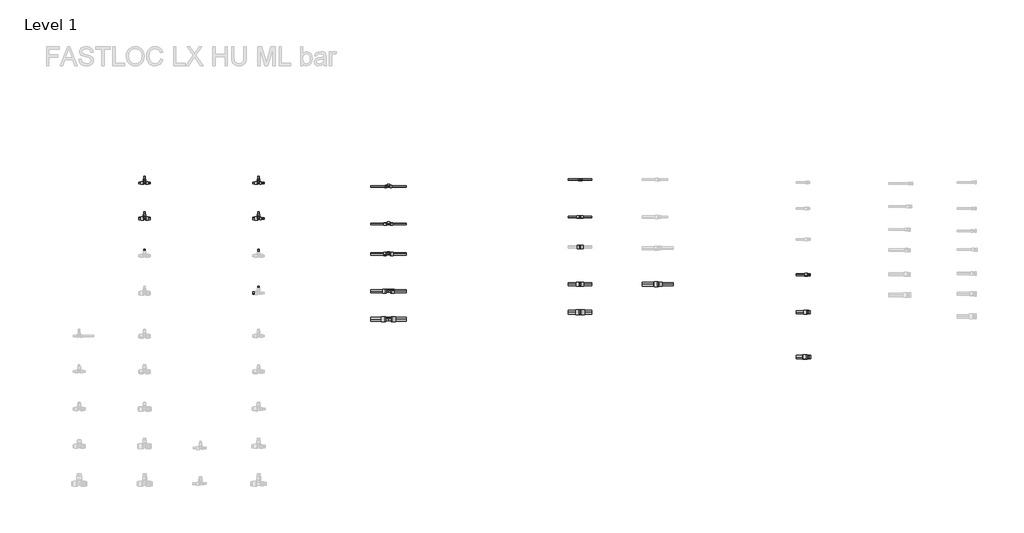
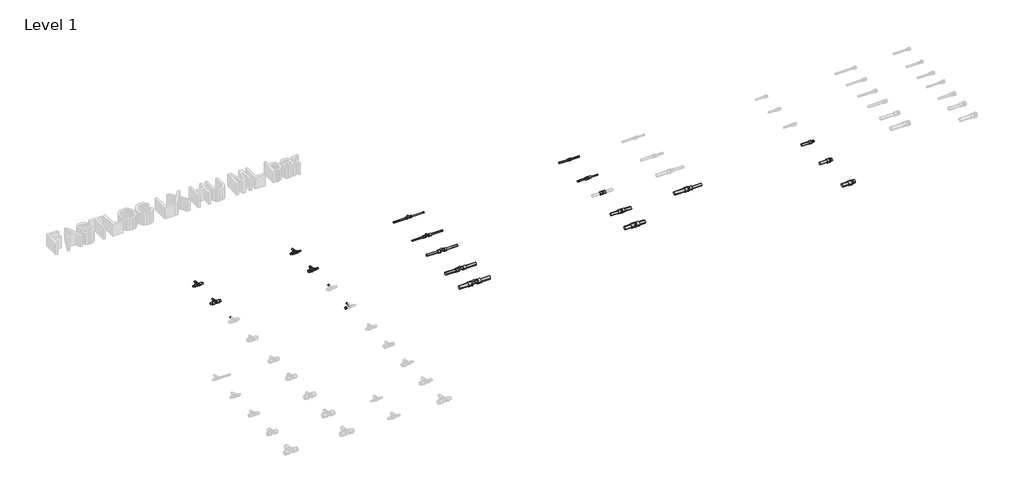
# One storey, part 26 of 78: 39 pipe segments, 18 pipe fittings.
"""IFC4 building model written with IfcOpenShell, lengths in millimetres."""

from ifc_helpers import new_model, si_unit, point, frame, frame_2d, origin, place, context, project, spatial, circle_curve, trimmed, segment, composite_curve, outline, extrude, transform, mapped, element, save
from components import pipe_fitting_027be69e, pipe_fitting_14a26f43, pipe_fitting_91740978, pipe_fitting_5ae7c970, pipe_fitting_e97a97d3, pipe_fitting_8fb58d5f, pipe_fitting_db17a53a, pipe_fitting_d92d4423, pipe_fitting_47d0521d, pipe_fitting_29c4d4eb, pipe_fitting_00caae07, pipe_fitting_1d22680d, pipe_fitting_5e3c5755, pipe_fitting_f5731c1c, pipe_fitting_607ccf76, pipe_fitting_a999c26e, pipe_fitting_b01d00d0, pipe_fitting_e8fea69e

model = new_model("IFC4")

# Units and contexts
model_context = context("Model", 3, world=origin())
ifc_project = project(units=[si_unit("LENGTHUNIT", "METRE", prefix="MILLI")], contexts=[model_context])

# Site, building, storey
site = spatial("IfcSite", under=ifc_project)
building = spatial("IfcBuilding", under=site)
storey = spatial("IfcBuildingStorey", under=building, Name="Level 1", Elevation=0.0)

# Pipe fittings
placement = place(None, origin())
pipe_fitting_shape = pipe_fitting_027be69e(model_context)
element("IfcPipeFitting", 1, ObjectType="FASTLOC_Coupling equal LX : FSL C LX HU", at=placement, inside=storey, context=model_context, shape_type="MappedRepresentation", body=[
    mapped(pipe_fitting_shape, transform((5088.3790161, -1205.8821283, 0.0), x_axis=(1.0, 0.0, 0.0), y_axis=(0.0, 1.0, 0.0), z_axis=(0.0, 0.0, 1.0))),
])
pipe_fitting_2_shape = pipe_fitting_14a26f43(model_context)
element("IfcPipeFitting", 2, ObjectType="FASTLOC_Coupling reduced LX : FSL C LX HU", at=placement, inside=storey, context=model_context, shape_type="MappedRepresentation", body=[
    mapped(pipe_fitting_2_shape, transform((5926.6928556, -2325.8821283, 0.0), x_axis=(1.0, 0.0, 0.0), y_axis=(0.0, 1.0, 0.0), z_axis=(0.0, 0.0, 1.0))),
])
pipe_fitting_3_shape = pipe_fitting_91740978(model_context)
element("IfcPipeFitting", 3, ObjectType="FASTLOC_T-piece internal thread LX : FSL T thread LX HU", at=placement, inside=storey, context=model_context, shape_type="MappedRepresentation", body=[
    mapped(pipe_fitting_3_shape, transform((3036.609585, -2399.8272875, 0.0), x_axis=(1.0, 0.0, 0.0), y_axis=(0.0, 1.0, 0.0), z_axis=(0.0, 0.0, 1.0))),
])
pipe_fitting_4_shape = pipe_fitting_5ae7c970(model_context)
element("IfcPipeFitting", 4, ObjectType="FASTLOC_T-piece_LX : FSL T-Piece LX HU", at=placement, inside=storey, context=model_context, shape_type="MappedRepresentation", body=[
    mapped(pipe_fitting_4_shape, transform((426.7498072, -1240.2405791, 0.0), x_axis=(1.0, 0.0, 0.0), y_axis=(0.0, 1.0, 0.0), z_axis=(0.0, 0.0, 1.0))),
])
pipe_fitting_5_shape = pipe_fitting_e97a97d3(model_context)
element("IfcPipeFitting", 5, ObjectType="FASTLOC_T-piece_LX : FSL T-Piece LX HU", at=placement, inside=storey, context=model_context, shape_type="MappedRepresentation", body=[
    mapped(pipe_fitting_5_shape, transform((426.7498072, -1620.2405791, 0.0), x_axis=(1.0, 0.0, 0.0), y_axis=(0.0, 1.0, 0.0), z_axis=(0.0, 0.0, 1.0))),
])
pipe_fitting_6_shape = pipe_fitting_8fb58d5f(model_context)
element("IfcPipeFitting", 6, ObjectType="FASTLOC_T-piece_LX : FSL T-Piece LX HU", at=placement, inside=storey, context=model_context, shape_type="MappedRepresentation", body=[
    mapped(pipe_fitting_6_shape, transform((1646.7498072, -1240.2405791, 0.0), x_axis=(1.0, 0.0, 0.0), y_axis=(0.0, 1.0, 0.0), z_axis=(0.0, 0.0, 1.0))),
])
pipe_fitting_7_shape = pipe_fitting_db17a53a(model_context)
element("IfcPipeFitting", 7, ObjectType="FASTLOC_T-piece_LX : FSL T-Piece LX HU", at=placement, inside=storey, context=model_context, shape_type="MappedRepresentation", body=[
    mapped(pipe_fitting_7_shape, transform((1646.7498072, -1620.2405791, 0.0), x_axis=(1.0, 0.0, 0.0), y_axis=(0.0, 1.0, 0.0), z_axis=(0.0, 0.0, 1.0))),
])
pipe_fitting_8_shape = pipe_fitting_d92d4423(model_context)
element("IfcPipeFitting", 8, ObjectType="FASTLOC_T-piece internal thread LX : FSL T thread LX HU", at=placement, inside=storey, context=model_context, shape_type="MappedRepresentation", body=[
    mapped(pipe_fitting_8_shape, transform((3036.609585, -1279.8272875, 0.0), x_axis=(1.0, 0.0, 0.0), y_axis=(0.0, 1.0, 0.0), z_axis=(0.0, 0.0, 1.0))),
])
pipe_fitting_9_shape = pipe_fitting_47d0521d(model_context)
element("IfcPipeFitting", 9, ObjectType="FASTLOC_T-piece internal thread LX : FSL T thread LX HU", at=placement, inside=storey, context=model_context, shape_type="MappedRepresentation", body=[
    mapped(pipe_fitting_9_shape, transform((3036.609585, -1679.8272875, 0.0), x_axis=(1.0, 0.0, 0.0), y_axis=(0.0, 1.0, 0.0), z_axis=(0.0, 0.0, 1.0))),
])
pipe_fitting_10_shape = pipe_fitting_29c4d4eb(model_context)
element("IfcPipeFitting", 10, ObjectType="FASTLOC_T-piece internal thread LX : FSL T thread LX HU", at=placement, inside=storey, context=model_context, shape_type="MappedRepresentation", body=[
    mapped(pipe_fitting_10_shape, transform((3036.609585, -1999.8272875, 0.0), x_axis=(1.0, 0.0, 0.0), y_axis=(0.0, 1.0, 0.0), z_axis=(0.0, 0.0, 1.0))),
])
pipe_fitting_11_shape = pipe_fitting_00caae07(model_context)
element("IfcPipeFitting", 11, ObjectType="FASTLOC_T-piece internal thread LX : FSL T thread LX HU", at=placement, inside=storey, context=model_context, shape_type="MappedRepresentation", body=[
    mapped(pipe_fitting_11_shape, transform((3036.609585, -2699.8272875, 0.0), x_axis=(1.0, 0.0, 0.0), y_axis=(0.0, 1.0, 0.0), z_axis=(0.0, 0.0, 1.0))),
])
pipe_fitting_12_shape = pipe_fitting_1d22680d(model_context)
element("IfcPipeFitting", 12, ObjectType="FASTLOC_Coupling equal LX : FSL C LX HU", at=placement, inside=storey, context=model_context, shape_type="MappedRepresentation", body=[
    mapped(pipe_fitting_12_shape, transform((5088.3790161, -1605.8821283, 0.0), x_axis=(1.0, 0.0, 0.0), y_axis=(0.0, 1.0, 0.0), z_axis=(0.0, 0.0, 1.0))),
])
pipe_fitting_13_shape = pipe_fitting_5e3c5755(model_context)
element("IfcPipeFitting", 13, ObjectType="FASTLOC_Coupling equal LX : FSL C LX HU", at=placement, inside=storey, context=model_context, shape_type="MappedRepresentation", body=[
    mapped(pipe_fitting_13_shape, transform((5088.3790161, -1925.8821283, 0.0), x_axis=(1.0, 0.0, 0.0), y_axis=(0.0, 1.0, 0.0), z_axis=(0.0, 0.0, 1.0))),
])
pipe_fitting_14_shape = pipe_fitting_f5731c1c(model_context)
element("IfcPipeFitting", 14, ObjectType="FASTLOC_Coupling equal LX : FSL C LX HU", at=placement, inside=storey, context=model_context, shape_type="MappedRepresentation", body=[
    mapped(pipe_fitting_14_shape, transform((5088.3790161, -2325.8821283, 0.0), x_axis=(1.0, 0.0, 0.0), y_axis=(0.0, 1.0, 0.0), z_axis=(0.0, 0.0, 1.0))),
])
pipe_fitting_15_shape = pipe_fitting_607ccf76(model_context)
element("IfcPipeFitting", 15, ObjectType="FASTLOC_Coupling equal LX : FSL C LX HU", at=placement, inside=storey, context=model_context, shape_type="MappedRepresentation", body=[
    mapped(pipe_fitting_15_shape, transform((5088.3790161, -2625.8821283, 0.0), x_axis=(1.0, 0.0, 0.0), y_axis=(0.0, 1.0, 0.0), z_axis=(0.0, 0.0, 1.0))),
])
pipe_fitting_16_shape = pipe_fitting_a999c26e(model_context)
element("IfcPipeFitting", 16, ObjectType="FASTLOC_Adapter_LX, with external thread : FSL A C external HU", at=placement, inside=storey, context=model_context, shape_type="MappedRepresentation", body=[
    mapped(pipe_fitting_16_shape, transform((7526.8953131, -2224.2068389, 0.0), x_axis=(1.0, 0.0, 0.0), y_axis=(0.0, 1.0, 0.0), z_axis=(0.0, 0.0, 1.0))),
])
pipe_fitting_17_shape = pipe_fitting_b01d00d0(model_context)
element("IfcPipeFitting", 17, ObjectType="FASTLOC_Adapter_LX, with external thread : FSL A C external HU", at=placement, inside=storey, context=model_context, shape_type="MappedRepresentation", body=[
    mapped(pipe_fitting_17_shape, transform((7526.8953131, -2624.2068389, 0.0), x_axis=(1.0, 0.0, 0.0), y_axis=(0.0, 1.0, 0.0), z_axis=(0.0, 0.0, 1.0))),
])
pipe_fitting_18_shape = pipe_fitting_e8fea69e(model_context)
element("IfcPipeFitting", 18, ObjectType="FASTLOC_Adapter_LX, with external thread : FSL A C external HU", at=placement, inside=storey, context=model_context, shape_type="MappedRepresentation", body=[
    mapped(pipe_fitting_18_shape, transform((7526.8953131, -3104.2068389, 0.0), x_axis=(1.0, 0.0, 0.0), y_axis=(0.0, 1.0, 0.0), z_axis=(0.0, 0.0, 1.0))),
])

# Pipe segments
element("IfcPipeSegment", 19, ObjectType="FASTLOC LX ML HU bar", at=placement, inside=storey, context=model_context, shape_type="SweptSolid", body=[
    extrude(outline(composite_curve([segment(trimmed(circle_curve(frame_2d((-1240.2405791, 0.0)), 8.0), [point((-1248.2405791, 0.0))], [point((-1240.2405791, 8.0))], False, "CARTESIAN"), True, "CONTINUOUS"), segment(trimmed(circle_curve(frame_2d((-1240.2405791, 0.0)), 8.0), [point((-1240.2405791, 8.0))], [point((-1232.2405791, 0.0))], False, "CARTESIAN"), True, "CONTINUOUS"), segment(trimmed(circle_curve(frame_2d((-1240.2405791, 0.0)), 8.0), [point((-1232.2405791, 0.0))], [point((-1240.2405791, -8.0))], False, "CARTESIAN"), True, "CONTINUOUS"), segment(trimmed(circle_curve(frame_2d((-1240.2405791, 0.0)), 8.0), [point((-1240.2405791, -8.0))], [point((-1248.2405791, 0.0))], False, "CARTESIAN"), True, "CONTINUOUS")], self_intersect=False)), frame((442.0498072, 0.0, 0.0), z_axis=(1.0, 0.0, 0.0), x_axis=(0.0, 1.0, 0.0)), (0.0, 0.0, 1.0), 46.7),
])
element("IfcPipeSegment", 20, ObjectType="FASTLOC LX ML HU bar", at=placement, inside=storey, context=model_context, shape_type="SweptSolid", body=[
    extrude(outline(composite_curve([segment(trimmed(circle_curve(frame_2d((-1240.2405791, 0.0)), 8.0), [point((-1232.2405791, 0.0))], [point((-1240.2405791, -8.0))], False, "CARTESIAN"), True, "CONTINUOUS"), segment(trimmed(circle_curve(frame_2d((-1240.2405791, 0.0)), 8.0), [point((-1240.2405791, -8.0))], [point((-1248.2405791, 0.0))], False, "CARTESIAN"), True, "CONTINUOUS"), segment(trimmed(circle_curve(frame_2d((-1240.2405791, 0.0)), 8.0), [point((-1248.2405791, 0.0))], [point((-1240.2405791, 8.0))], False, "CARTESIAN"), True, "CONTINUOUS"), segment(trimmed(circle_curve(frame_2d((-1240.2405791, 0.0)), 8.0), [point((-1240.2405791, 8.0))], [point((-1232.2405791, 0.0))], False, "CARTESIAN"), True, "CONTINUOUS")], self_intersect=False)), frame((364.7498072, 0.0, 0.0), z_axis=(1.0, 0.0, 0.0), x_axis=(0.0, 1.0, 0.0)), (0.0, 0.0, 1.0), 46.7),
])
element("IfcPipeSegment", 21, ObjectType="FASTLOC LX ML HU bar", at=placement, inside=storey, context=model_context, shape_type="SweptSolid", body=[
    extrude(outline(composite_curve([segment(trimmed(circle_curve(frame_2d((0.0, 426.7498072)), 8.0), [point((0.0, 434.7498072))], [point((8.0, 426.7498072))], False, "CARTESIAN"), True, "CONTINUOUS"), segment(trimmed(circle_curve(frame_2d((0.0, 426.7498072)), 8.0), [point((8.0, 426.7498072))], [point((0.0, 418.7498072))], False, "CARTESIAN"), True, "CONTINUOUS"), segment(trimmed(circle_curve(frame_2d((0.0, 426.7498072)), 8.0), [point((0.0, 418.7498072))], [point((-8.0, 426.7498072))], False, "CARTESIAN"), True, "CONTINUOUS"), segment(trimmed(circle_curve(frame_2d((0.0, 426.7498072)), 8.0), [point((-8.0, 426.7498072))], [point((0.0, 434.7498072))], False, "CARTESIAN"), True, "CONTINUOUS")], self_intersect=False)), frame((0.0, -1213.9405791, 0.0), z_axis=(0.0, 1.0, 0.0), x_axis=(0.0, 0.0, 1.0)), (0.0, 0.0, 1.0), 46.0),
])
element("IfcPipeSegment", 22, ObjectType="FASTLOC LX ML HU bar", at=placement, inside=storey, context=model_context, shape_type="SweptSolid", body=[
    extrude(outline(composite_curve([segment(trimmed(circle_curve(frame_2d((-1620.2405791, 0.0)), 12.5), [point((-1632.7405791, 0.0))], [point((-1620.2405791, 12.5))], False, "CARTESIAN"), True, "CONTINUOUS"), segment(trimmed(circle_curve(frame_2d((-1620.2405791, 0.0)), 12.5), [point((-1620.2405791, 12.5))], [point((-1607.7405791, 0.0))], False, "CARTESIAN"), True, "CONTINUOUS"), segment(trimmed(circle_curve(frame_2d((-1620.2405791, 0.0)), 12.5), [point((-1607.7405791, 0.0))], [point((-1620.2405791, -12.5))], False, "CARTESIAN"), True, "CONTINUOUS"), segment(trimmed(circle_curve(frame_2d((-1620.2405791, 0.0)), 12.5), [point((-1620.2405791, -12.5))], [point((-1632.7405791, 0.0))], False, "CARTESIAN"), True, "CONTINUOUS")], self_intersect=False)), frame((442.9498072, 0.0, 0.0), z_axis=(1.0, 0.0, 0.0), x_axis=(0.0, 1.0, 0.0)), (0.0, 0.0, 1.0), 45.8),
])
element("IfcPipeSegment", 23, ObjectType="FASTLOC LX ML HU bar", at=placement, inside=storey, context=model_context, shape_type="SweptSolid", body=[
    extrude(outline(composite_curve([segment(trimmed(circle_curve(frame_2d((-1620.2405791, 0.0)), 12.5), [point((-1607.7405791, 0.0))], [point((-1620.2405791, -12.5))], False, "CARTESIAN"), True, "CONTINUOUS"), segment(trimmed(circle_curve(frame_2d((-1620.2405791, 0.0)), 12.5), [point((-1620.2405791, -12.5))], [point((-1632.7405791, 0.0))], False, "CARTESIAN"), True, "CONTINUOUS"), segment(trimmed(circle_curve(frame_2d((-1620.2405791, 0.0)), 12.5), [point((-1632.7405791, 0.0))], [point((-1620.2405791, 12.5))], False, "CARTESIAN"), True, "CONTINUOUS"), segment(trimmed(circle_curve(frame_2d((-1620.2405791, 0.0)), 12.5), [point((-1620.2405791, 12.5))], [point((-1607.7405791, 0.0))], False, "CARTESIAN"), True, "CONTINUOUS")], self_intersect=False)), frame((364.7498072, 0.0, 0.0), z_axis=(1.0, 0.0, 0.0), x_axis=(0.0, 1.0, 0.0)), (0.0, 0.0, 1.0), 45.8),
])
element("IfcPipeSegment", 24, ObjectType="FASTLOC LX ML HU bar", at=placement, inside=storey, context=model_context, shape_type="SweptSolid", body=[
    extrude(outline(composite_curve([segment(trimmed(circle_curve(frame_2d((0.0, 426.7498072)), 8.0), [point((0.0, 434.7498072))], [point((8.0, 426.7498072))], False, "CARTESIAN"), True, "CONTINUOUS"), segment(trimmed(circle_curve(frame_2d((0.0, 426.7498072)), 8.0), [point((8.0, 426.7498072))], [point((0.0, 418.7498072))], False, "CARTESIAN"), True, "CONTINUOUS"), segment(trimmed(circle_curve(frame_2d((0.0, 426.7498072)), 8.0), [point((0.0, 418.7498072))], [point((-8.0, 426.7498072))], False, "CARTESIAN"), True, "CONTINUOUS"), segment(trimmed(circle_curve(frame_2d((0.0, 426.7498072)), 8.0), [point((-8.0, 426.7498072))], [point((0.0, 434.7498072))], False, "CARTESIAN"), True, "CONTINUOUS")], self_intersect=False)), frame((0.0, -1591.2405791, 0.0), z_axis=(0.0, 1.0, 0.0), x_axis=(0.0, 0.0, 1.0)), (0.0, 0.0, 1.0), 43.3),
])
element("IfcPipeSegment", 25, ObjectType="FASTLOC LX ML HU bar", at=placement, inside=storey, context=model_context, shape_type="SweptSolid", body=[
    extrude(outline(composite_curve([segment(trimmed(circle_curve(frame_2d((0.0, 426.7498072)), 8.0), [point((0.0, 434.7498072))], [point((8.0, 426.7498072))], False, "CARTESIAN"), True, "CONTINUOUS"), segment(trimmed(circle_curve(frame_2d((0.0, 426.7498072)), 8.0), [point((8.0, 426.7498072))], [point((0.0, 418.7498072))], False, "CARTESIAN"), True, "CONTINUOUS"), segment(trimmed(circle_curve(frame_2d((0.0, 426.7498072)), 8.0), [point((0.0, 418.7498072))], [point((-8.0, 426.7498072))], False, "CARTESIAN"), True, "CONTINUOUS"), segment(trimmed(circle_curve(frame_2d((0.0, 426.7498072)), 8.0), [point((-8.0, 426.7498072))], [point((0.0, 434.7498072))], False, "CARTESIAN"), True, "CONTINUOUS")], self_intersect=False)), frame((0.0, -1991.0405791, 0.0), z_axis=(0.0, 1.0, 0.0), x_axis=(0.0, 0.0, 1.0)), (0.0, 0.0, 1.0), 43.1),
])
element("IfcPipeSegment", 26, ObjectType="FASTLOC LX ML HU bar", at=placement, inside=storey, context=model_context, shape_type="SweptSolid", body=[
    extrude(outline(composite_curve([segment(trimmed(circle_curve(frame_2d((-1240.2405791, 0.0)), 8.0), [point((-1248.2405791, 0.0))], [point((-1240.2405791, 8.0))], False, "CARTESIAN"), True, "CONTINUOUS"), segment(trimmed(circle_curve(frame_2d((-1240.2405791, 0.0)), 8.0), [point((-1240.2405791, 8.0))], [point((-1232.2405791, 0.0))], False, "CARTESIAN"), True, "CONTINUOUS"), segment(trimmed(circle_curve(frame_2d((-1240.2405791, 0.0)), 8.0), [point((-1232.2405791, 0.0))], [point((-1240.2405791, -8.0))], False, "CARTESIAN"), True, "CONTINUOUS"), segment(trimmed(circle_curve(frame_2d((-1240.2405791, 0.0)), 8.0), [point((-1240.2405791, -8.0))], [point((-1248.2405791, 0.0))], False, "CARTESIAN"), True, "CONTINUOUS")], self_intersect=False)), frame((1661.8498072, 0.0, 0.0), z_axis=(1.0, 0.0, 0.0), x_axis=(0.0, 1.0, 0.0)), (0.0, 0.0, 1.0), 46.9),
])
element("IfcPipeSegment", 27, ObjectType="FASTLOC LX ML HU bar", at=placement, inside=storey, context=model_context, shape_type="SweptSolid", body=[
    extrude(outline(composite_curve([segment(trimmed(circle_curve(frame_2d((-1240.2405791, 0.0)), 8.0), [point((-1232.2405791, 0.0))], [point((-1240.2405791, -8.0))], False, "CARTESIAN"), True, "CONTINUOUS"), segment(trimmed(circle_curve(frame_2d((-1240.2405791, 0.0)), 8.0), [point((-1240.2405791, -8.0))], [point((-1248.2405791, 0.0))], False, "CARTESIAN"), True, "CONTINUOUS"), segment(trimmed(circle_curve(frame_2d((-1240.2405791, 0.0)), 8.0), [point((-1248.2405791, 0.0))], [point((-1240.2405791, 8.0))], False, "CARTESIAN"), True, "CONTINUOUS"), segment(trimmed(circle_curve(frame_2d((-1240.2405791, 0.0)), 8.0), [point((-1240.2405791, 8.0))], [point((-1232.2405791, 0.0))], False, "CARTESIAN"), True, "CONTINUOUS")], self_intersect=False)), frame((1584.7498072, 0.0, 0.0), z_axis=(1.0, 0.0, 0.0), x_axis=(0.0, 1.0, 0.0)), (0.0, 0.0, 1.0), 46.5),
])
element("IfcPipeSegment", 28, ObjectType="FASTLOC LX ML HU bar", at=placement, inside=storey, context=model_context, shape_type="SweptSolid", body=[
    extrude(outline(composite_curve([segment(trimmed(circle_curve(frame_2d((0.0, 1646.7498072)), 8.0), [point((0.0, 1654.7498072))], [point((8.0, 1646.7498072))], False, "CARTESIAN"), True, "CONTINUOUS"), segment(trimmed(circle_curve(frame_2d((0.0, 1646.7498072)), 8.0), [point((8.0, 1646.7498072))], [point((0.0, 1638.7498072))], False, "CARTESIAN"), True, "CONTINUOUS"), segment(trimmed(circle_curve(frame_2d((0.0, 1646.7498072)), 8.0), [point((0.0, 1638.7498072))], [point((-8.0, 1646.7498072))], False, "CARTESIAN"), True, "CONTINUOUS"), segment(trimmed(circle_curve(frame_2d((0.0, 1646.7498072)), 8.0), [point((-8.0, 1646.7498072))], [point((0.0, 1654.7498072))], False, "CARTESIAN"), True, "CONTINUOUS")], self_intersect=False)), frame((0.0, -1213.8405791, 0.0), z_axis=(0.0, 1.0, 0.0), x_axis=(0.0, 0.0, 1.0)), (0.0, 0.0, 1.0), 45.9),
])
element("IfcPipeSegment", 29, ObjectType="FASTLOC LX ML HU bar", at=placement, inside=storey, context=model_context, shape_type="SweptSolid", body=[
    extrude(outline(composite_curve([segment(trimmed(circle_curve(frame_2d((-1620.2405791, 0.0)), 8.0), [point((-1628.2405791, 0.0))], [point((-1620.2405791, 8.0))], False, "CARTESIAN"), True, "CONTINUOUS"), segment(trimmed(circle_curve(frame_2d((-1620.2405791, 0.0)), 8.0), [point((-1620.2405791, 8.0))], [point((-1612.2405791, 0.0))], False, "CARTESIAN"), True, "CONTINUOUS"), segment(trimmed(circle_curve(frame_2d((-1620.2405791, 0.0)), 8.0), [point((-1612.2405791, 0.0))], [point((-1620.2405791, -8.0))], False, "CARTESIAN"), True, "CONTINUOUS"), segment(trimmed(circle_curve(frame_2d((-1620.2405791, 0.0)), 8.0), [point((-1620.2405791, -8.0))], [point((-1628.2405791, 0.0))], False, "CARTESIAN"), True, "CONTINUOUS")], self_intersect=False)), frame((1661.8498072, 0.0, 0.0), z_axis=(1.0, 0.0, 0.0), x_axis=(0.0, 1.0, 0.0)), (0.0, 0.0, 1.0), 46.9),
])
element("IfcPipeSegment", 30, ObjectType="FASTLOC LX ML HU bar", at=placement, inside=storey, context=model_context, shape_type="SweptSolid", body=[
    extrude(outline(composite_curve([segment(trimmed(circle_curve(frame_2d((-1620.2405791, 0.0)), 12.5), [point((-1607.7405791, 0.0))], [point((-1620.2405791, -12.5))], False, "CARTESIAN"), True, "CONTINUOUS"), segment(trimmed(circle_curve(frame_2d((-1620.2405791, 0.0)), 12.5), [point((-1620.2405791, -12.5))], [point((-1632.7405791, 0.0))], False, "CARTESIAN"), True, "CONTINUOUS"), segment(trimmed(circle_curve(frame_2d((-1620.2405791, 0.0)), 12.5), [point((-1632.7405791, 0.0))], [point((-1620.2405791, 12.5))], False, "CARTESIAN"), True, "CONTINUOUS"), segment(trimmed(circle_curve(frame_2d((-1620.2405791, 0.0)), 12.5), [point((-1620.2405791, 12.5))], [point((-1607.7405791, 0.0))], False, "CARTESIAN"), True, "CONTINUOUS")], self_intersect=False)), frame((1584.7498072, 0.0, 0.0), z_axis=(1.0, 0.0, 0.0), x_axis=(0.0, 1.0, 0.0)), (0.0, 0.0, 1.0), 45.6),
])
element("IfcPipeSegment", 31, ObjectType="FASTLOC LX ML HU bar", at=placement, inside=storey, context=model_context, shape_type="SweptSolid", body=[
    extrude(outline(composite_curve([segment(trimmed(circle_curve(frame_2d((0.0, 1646.7498072)), 8.0), [point((0.0, 1654.7498072))], [point((8.0, 1646.7498072))], False, "CARTESIAN"), True, "CONTINUOUS"), segment(trimmed(circle_curve(frame_2d((0.0, 1646.7498072)), 8.0), [point((8.0, 1646.7498072))], [point((0.0, 1638.7498072))], False, "CARTESIAN"), True, "CONTINUOUS"), segment(trimmed(circle_curve(frame_2d((0.0, 1646.7498072)), 8.0), [point((0.0, 1638.7498072))], [point((-8.0, 1646.7498072))], False, "CARTESIAN"), True, "CONTINUOUS"), segment(trimmed(circle_curve(frame_2d((0.0, 1646.7498072)), 8.0), [point((-8.0, 1646.7498072))], [point((0.0, 1654.7498072))], False, "CARTESIAN"), True, "CONTINUOUS")], self_intersect=False)), frame((0.0, -1591.1405791, 0.0), z_axis=(0.0, 1.0, 0.0), x_axis=(0.0, 0.0, 1.0)), (0.0, 0.0, 1.0), 43.2),
])
element("IfcPipeSegment", 32, ObjectType="FASTLOC LX ML HU bar", at=placement, inside=storey, context=model_context, shape_type="SweptSolid", body=[
    extrude(outline(composite_curve([segment(trimmed(circle_curve(frame_2d((0.0, 1646.7498072)), 8.0), [point((0.0, 1654.7498072))], [point((8.0, 1646.7498072))], False, "CARTESIAN"), True, "CONTINUOUS"), segment(trimmed(circle_curve(frame_2d((0.0, 1646.7498072)), 8.0), [point((8.0, 1646.7498072))], [point((0.0, 1638.7498072))], False, "CARTESIAN"), True, "CONTINUOUS"), segment(trimmed(circle_curve(frame_2d((0.0, 1646.7498072)), 8.0), [point((0.0, 1638.7498072))], [point((-8.0, 1646.7498072))], False, "CARTESIAN"), True, "CONTINUOUS"), segment(trimmed(circle_curve(frame_2d((0.0, 1646.7498072)), 8.0), [point((-8.0, 1646.7498072))], [point((0.0, 1654.7498072))], False, "CARTESIAN"), True, "CONTINUOUS")], self_intersect=False)), frame((0.0, -1991.1405791, 0.0), z_axis=(0.0, 1.0, 0.0), x_axis=(0.0, 0.0, 1.0)), (0.0, 0.0, 1.0), 43.2),
])
element("IfcPipeSegment", 33, ObjectType="FASTLOC LX ML HU bar", at=placement, inside=storey, context=model_context, shape_type="SweptSolid", body=[
    extrude(outline(composite_curve([segment(trimmed(circle_curve(frame_2d((-2420.2405791, 0.0)), 12.5), [point((-2407.7405791, 0.0))], [point((-2420.2405791, -12.5))], False, "CARTESIAN"), True, "CONTINUOUS"), segment(trimmed(circle_curve(frame_2d((-2420.2405791, 0.0)), 12.5), [point((-2420.2405791, -12.5))], [point((-2432.7405791, 0.0))], False, "CARTESIAN"), True, "CONTINUOUS"), segment(trimmed(circle_curve(frame_2d((-2420.2405791, 0.0)), 12.5), [point((-2432.7405791, 0.0))], [point((-2420.2405791, 12.5))], False, "CARTESIAN"), True, "CONTINUOUS"), segment(trimmed(circle_curve(frame_2d((-2420.2405791, 0.0)), 12.5), [point((-2420.2405791, 12.5))], [point((-2407.7405791, 0.0))], False, "CARTESIAN"), True, "CONTINUOUS")], self_intersect=False)), frame((1584.7498072, 0.0, 0.0), z_axis=(1.0, 0.0, 0.0), x_axis=(0.0, 1.0, 0.0)), (0.0, 0.0, 1.0), 43.7),
])
element("IfcPipeSegment", 34, ObjectType="FASTLOC LX ML HU bar", at=placement, inside=storey, context=model_context, shape_type="SweptSolid", body=[
    extrude(outline(composite_curve([segment(trimmed(circle_curve(frame_2d((0.0, 1646.7498072)), 8.0), [point((0.0, 1654.7498072))], [point((8.0, 1646.7498072))], False, "CARTESIAN"), True, "CONTINUOUS"), segment(trimmed(circle_curve(frame_2d((0.0, 1646.7498072)), 8.0), [point((8.0, 1646.7498072))], [point((0.0, 1638.7498072))], False, "CARTESIAN"), True, "CONTINUOUS"), segment(trimmed(circle_curve(frame_2d((0.0, 1646.7498072)), 8.0), [point((0.0, 1638.7498072))], [point((-8.0, 1646.7498072))], False, "CARTESIAN"), True, "CONTINUOUS"), segment(trimmed(circle_curve(frame_2d((0.0, 1646.7498072)), 8.0), [point((-8.0, 1646.7498072))], [point((0.0, 1654.7498072))], False, "CARTESIAN"), True, "CONTINUOUS")], self_intersect=False)), frame((0.0, -2391.0405791, 0.0), z_axis=(0.0, 1.0, 0.0), x_axis=(0.0, 0.0, 1.0)), (0.0, 0.0, 1.0), 43.1),
])
element("IfcPipeSegment", 35, ObjectType="FASTLOC LX ML HU bar", at=placement, inside=storey, context=model_context, shape_type="SweptSolid", body=[
    extrude(outline(composite_curve([segment(trimmed(circle_curve(frame_2d((-1279.8272875, 0.0)), 8.0), [point((-1287.8272875, 0.0))], [point((-1279.8272875, 8.0))], False, "CARTESIAN"), True, "CONTINUOUS"), segment(trimmed(circle_curve(frame_2d((-1279.8272875, 0.0)), 8.0), [point((-1279.8272875, 8.0))], [point((-1271.8272875, 0.0))], False, "CARTESIAN"), True, "CONTINUOUS"), segment(trimmed(circle_curve(frame_2d((-1279.8272875, 0.0)), 8.0), [point((-1271.8272875, 0.0))], [point((-1279.8272875, -8.0))], False, "CARTESIAN"), True, "CONTINUOUS"), segment(trimmed(circle_curve(frame_2d((-1279.8272875, 0.0)), 8.0), [point((-1279.8272875, -8.0))], [point((-1287.8272875, 0.0))], False, "CARTESIAN"), True, "CONTINUOUS")], self_intersect=False)), frame((3058.609585, 0.0, 0.0), z_axis=(1.0, 0.0, 0.0), x_axis=(0.0, 1.0, 0.0)), (0.0, 0.0, 1.0), 170.0),
])
element("IfcPipeSegment", 36, ObjectType="FASTLOC LX ML HU bar", at=placement, inside=storey, context=model_context, shape_type="SweptSolid", body=[
    extrude(outline(composite_curve([segment(trimmed(circle_curve(frame_2d((-1279.8272875, 0.0)), 8.0), [point((-1271.8272875, 0.0))], [point((-1279.8272875, -8.0))], False, "CARTESIAN"), True, "CONTINUOUS"), segment(trimmed(circle_curve(frame_2d((-1279.8272875, 0.0)), 8.0), [point((-1279.8272875, -8.0))], [point((-1287.8272875, 0.0))], False, "CARTESIAN"), True, "CONTINUOUS"), segment(trimmed(circle_curve(frame_2d((-1279.8272875, 0.0)), 8.0), [point((-1287.8272875, 0.0))], [point((-1279.8272875, 8.0))], False, "CARTESIAN"), True, "CONTINUOUS"), segment(trimmed(circle_curve(frame_2d((-1279.8272875, 0.0)), 8.0), [point((-1279.8272875, 8.0))], [point((-1271.8272875, 0.0))], False, "CARTESIAN"), True, "CONTINUOUS")], self_intersect=False)), frame((2849.609585, 0.0, 0.0), z_axis=(1.0, 0.0, 0.0), x_axis=(0.0, 1.0, 0.0)), (0.0, 0.0, 1.0), 165.0),
])
element("IfcPipeSegment", 37, ObjectType="FASTLOC LX ML HU bar", at=placement, inside=storey, context=model_context, shape_type="SweptSolid", body=[
    extrude(outline(composite_curve([segment(trimmed(circle_curve(frame_2d((-1679.8272875, 0.0)), 8.0), [point((-1687.8272875, 0.0))], [point((-1679.8272875, 8.0))], False, "CARTESIAN"), True, "CONTINUOUS"), segment(trimmed(circle_curve(frame_2d((-1679.8272875, 0.0)), 8.0), [point((-1679.8272875, 8.0))], [point((-1671.8272875, 0.0))], False, "CARTESIAN"), True, "CONTINUOUS"), segment(trimmed(circle_curve(frame_2d((-1679.8272875, 0.0)), 8.0), [point((-1671.8272875, 0.0))], [point((-1679.8272875, -8.0))], False, "CARTESIAN"), True, "CONTINUOUS"), segment(trimmed(circle_curve(frame_2d((-1679.8272875, 0.0)), 8.0), [point((-1679.8272875, -8.0))], [point((-1687.8272875, 0.0))], False, "CARTESIAN"), True, "CONTINUOUS")], self_intersect=False)), frame((3059.109585, 0.0, 0.0), z_axis=(1.0, 0.0, 0.0), x_axis=(0.0, 1.0, 0.0)), (0.0, 0.0, 1.0), 169.5),
])
element("IfcPipeSegment", 38, ObjectType="FASTLOC LX ML HU bar", at=placement, inside=storey, context=model_context, shape_type="SweptSolid", body=[
    extrude(outline(composite_curve([segment(trimmed(circle_curve(frame_2d((-1679.8272875, 0.0)), 8.0), [point((-1671.8272875, 0.0))], [point((-1679.8272875, -8.0))], False, "CARTESIAN"), True, "CONTINUOUS"), segment(trimmed(circle_curve(frame_2d((-1679.8272875, 0.0)), 8.0), [point((-1679.8272875, -8.0))], [point((-1687.8272875, 0.0))], False, "CARTESIAN"), True, "CONTINUOUS"), segment(trimmed(circle_curve(frame_2d((-1679.8272875, 0.0)), 8.0), [point((-1687.8272875, 0.0))], [point((-1679.8272875, 8.0))], False, "CARTESIAN"), True, "CONTINUOUS"), segment(trimmed(circle_curve(frame_2d((-1679.8272875, 0.0)), 8.0), [point((-1679.8272875, 8.0))], [point((-1671.8272875, 0.0))], False, "CARTESIAN"), True, "CONTINUOUS")], self_intersect=False)), frame((2849.609585, 0.0, 0.0), z_axis=(1.0, 0.0, 0.0), x_axis=(0.0, 1.0, 0.0)), (0.0, 0.0, 1.0), 164.5),
])
element("IfcPipeSegment", 39, ObjectType="FASTLOC LX ML HU bar", at=placement, inside=storey, context=model_context, shape_type="SweptSolid", body=[
    extrude(outline(composite_curve([segment(trimmed(circle_curve(frame_2d((-1999.8272875, 0.0)), 12.5), [point((-2012.3272875, 0.0))], [point((-1999.8272875, 12.5))], False, "CARTESIAN"), True, "CONTINUOUS"), segment(trimmed(circle_curve(frame_2d((-1999.8272875, 0.0)), 12.5), [point((-1999.8272875, 12.5))], [point((-1987.3272875, 0.0))], False, "CARTESIAN"), True, "CONTINUOUS"), segment(trimmed(circle_curve(frame_2d((-1999.8272875, 0.0)), 12.5), [point((-1987.3272875, 0.0))], [point((-1999.8272875, -12.5))], False, "CARTESIAN"), True, "CONTINUOUS"), segment(trimmed(circle_curve(frame_2d((-1999.8272875, 0.0)), 12.5), [point((-1999.8272875, -12.5))], [point((-2012.3272875, 0.0))], False, "CARTESIAN"), True, "CONTINUOUS")], self_intersect=False)), frame((3063.309585, 0.0, 0.0), z_axis=(1.0, 0.0, 0.0), x_axis=(0.0, 1.0, 0.0)), (0.0, 0.0, 1.0), 165.3),
])
element("IfcPipeSegment", 40, ObjectType="FASTLOC LX ML HU bar", at=placement, inside=storey, context=model_context, shape_type="SweptSolid", body=[
    extrude(outline(composite_curve([segment(trimmed(circle_curve(frame_2d((-1999.8272875, 0.0)), 12.5), [point((-1987.3272875, 0.0))], [point((-1999.8272875, -12.5))], False, "CARTESIAN"), True, "CONTINUOUS"), segment(trimmed(circle_curve(frame_2d((-1999.8272875, 0.0)), 12.5), [point((-1999.8272875, -12.5))], [point((-2012.3272875, 0.0))], False, "CARTESIAN"), True, "CONTINUOUS"), segment(trimmed(circle_curve(frame_2d((-1999.8272875, 0.0)), 12.5), [point((-2012.3272875, 0.0))], [point((-1999.8272875, 12.5))], False, "CARTESIAN"), True, "CONTINUOUS"), segment(trimmed(circle_curve(frame_2d((-1999.8272875, 0.0)), 12.5), [point((-1999.8272875, 12.5))], [point((-1987.3272875, 0.0))], False, "CARTESIAN"), True, "CONTINUOUS")], self_intersect=False)), frame((2849.609585, 0.0, 0.0), z_axis=(1.0, 0.0, 0.0), x_axis=(0.0, 1.0, 0.0)), (0.0, 0.0, 1.0), 160.3),
])
element("IfcPipeSegment", 41, ObjectType="FASTLOC LX ML HU bar", at=placement, inside=storey, context=model_context, shape_type="SweptSolid", body=[
    extrude(outline(composite_curve([segment(trimmed(circle_curve(frame_2d((-2399.8272875, 0.0)), 16.0), [point((-2415.8272875, 0.0))], [point((-2399.8272875, 16.0))], False, "CARTESIAN"), True, "CONTINUOUS"), segment(trimmed(circle_curve(frame_2d((-2399.8272875, 0.0)), 16.0), [point((-2399.8272875, 16.0))], [point((-2383.8272875, 0.0))], False, "CARTESIAN"), True, "CONTINUOUS"), segment(trimmed(circle_curve(frame_2d((-2399.8272875, 0.0)), 16.0), [point((-2383.8272875, 0.0))], [point((-2399.8272875, -16.0))], False, "CARTESIAN"), True, "CONTINUOUS"), segment(trimmed(circle_curve(frame_2d((-2399.8272875, 0.0)), 16.0), [point((-2399.8272875, -16.0))], [point((-2415.8272875, 0.0))], False, "CARTESIAN"), True, "CONTINUOUS")], self_intersect=False)), frame((3069.609585, 0.0, 0.0), z_axis=(1.0, 0.0, 0.0), x_axis=(0.0, 1.0, 0.0)), (0.0, 0.0, 1.0), 159.0),
])
element("IfcPipeSegment", 42, ObjectType="FASTLOC LX ML HU bar", at=placement, inside=storey, context=model_context, shape_type="SweptSolid", body=[
    extrude(outline(composite_curve([segment(trimmed(circle_curve(frame_2d((-2399.8272875, 0.0)), 16.0), [point((-2383.8272875, 0.0))], [point((-2399.8272875, -16.0))], False, "CARTESIAN"), True, "CONTINUOUS"), segment(trimmed(circle_curve(frame_2d((-2399.8272875, 0.0)), 16.0), [point((-2399.8272875, -16.0))], [point((-2415.8272875, 0.0))], False, "CARTESIAN"), True, "CONTINUOUS"), segment(trimmed(circle_curve(frame_2d((-2399.8272875, 0.0)), 16.0), [point((-2415.8272875, 0.0))], [point((-2399.8272875, 16.0))], False, "CARTESIAN"), True, "CONTINUOUS"), segment(trimmed(circle_curve(frame_2d((-2399.8272875, 0.0)), 16.0), [point((-2399.8272875, 16.0))], [point((-2383.8272875, 0.0))], False, "CARTESIAN"), True, "CONTINUOUS")], self_intersect=False)), frame((2849.609585, 0.0, 0.0), z_axis=(1.0, 0.0, 0.0), x_axis=(0.0, 1.0, 0.0)), (0.0, 0.0, 1.0), 154.0),
])
element("IfcPipeSegment", 43, ObjectType="FASTLOC LX ML HU bar", at=placement, inside=storey, context=model_context, shape_type="SweptSolid", body=[
    extrude(outline(composite_curve([segment(trimmed(circle_curve(frame_2d((-2699.8272875, 0.0)), 20.0), [point((-2719.8272875, 0.0))], [point((-2699.8272875, 20.0))], False, "CARTESIAN"), True, "CONTINUOUS"), segment(trimmed(circle_curve(frame_2d((-2699.8272875, 0.0)), 20.0), [point((-2699.8272875, 20.0))], [point((-2679.8272875, 0.0))], False, "CARTESIAN"), True, "CONTINUOUS"), segment(trimmed(circle_curve(frame_2d((-2699.8272875, 0.0)), 20.0), [point((-2679.8272875, 0.0))], [point((-2699.8272875, -20.0))], False, "CARTESIAN"), True, "CONTINUOUS"), segment(trimmed(circle_curve(frame_2d((-2699.8272875, 0.0)), 20.0), [point((-2699.8272875, -20.0))], [point((-2719.8272875, 0.0))], False, "CARTESIAN"), True, "CONTINUOUS")], self_intersect=False)), frame((3077.909585, 0.0, 0.0), z_axis=(1.0, 0.0, 0.0), x_axis=(0.0, 1.0, 0.0)), (0.0, 0.0, 1.0), 150.7),
])
element("IfcPipeSegment", 44, ObjectType="FASTLOC LX ML HU bar", at=placement, inside=storey, context=model_context, shape_type="SweptSolid", body=[
    extrude(outline(composite_curve([segment(trimmed(circle_curve(frame_2d((-2699.8272875, 0.0)), 20.0), [point((-2679.8272875, 0.0))], [point((-2699.8272875, -20.0))], False, "CARTESIAN"), True, "CONTINUOUS"), segment(trimmed(circle_curve(frame_2d((-2699.8272875, 0.0)), 20.0), [point((-2699.8272875, -20.0))], [point((-2719.8272875, 0.0))], False, "CARTESIAN"), True, "CONTINUOUS"), segment(trimmed(circle_curve(frame_2d((-2699.8272875, 0.0)), 20.0), [point((-2719.8272875, 0.0))], [point((-2699.8272875, 20.0))], False, "CARTESIAN"), True, "CONTINUOUS"), segment(trimmed(circle_curve(frame_2d((-2699.8272875, 0.0)), 20.0), [point((-2699.8272875, 20.0))], [point((-2679.8272875, 0.0))], False, "CARTESIAN"), True, "CONTINUOUS")], self_intersect=False)), frame((2849.609585, 0.0, 0.0), z_axis=(1.0, 0.0, 0.0), x_axis=(0.0, 1.0, 0.0)), (0.0, 0.0, 1.0), 145.7),
])
element("IfcPipeSegment", 45, ObjectType="FASTLOC LX ML HU bar", at=placement, inside=storey, context=model_context, shape_type="SweptSolid", body=[
    extrude(outline(composite_curve([segment(trimmed(circle_curve(frame_2d((-1205.8821283, 0.0)), 8.0), [point((-1213.8821283, 0.0))], [point((-1205.8821283, 8.0))], False, "CARTESIAN"), True, "CONTINUOUS"), segment(trimmed(circle_curve(frame_2d((-1205.8821283, 0.0)), 8.0), [point((-1205.8821283, 8.0))], [point((-1197.8821283, 0.0))], False, "CARTESIAN"), True, "CONTINUOUS"), segment(trimmed(circle_curve(frame_2d((-1205.8821283, 0.0)), 8.0), [point((-1197.8821283, 0.0))], [point((-1205.8821283, -8.0))], False, "CARTESIAN"), True, "CONTINUOUS"), segment(trimmed(circle_curve(frame_2d((-1205.8821283, 0.0)), 8.0), [point((-1205.8821283, -8.0))], [point((-1213.8821283, 0.0))], False, "CARTESIAN"), True, "CONTINUOUS")], self_intersect=False)), frame((5095.5790161, 0.0, 0.0), z_axis=(1.0, 0.0, 0.0), x_axis=(0.0, 1.0, 0.0)), (0.0, 0.0, 1.0), 115.0),
])
element("IfcPipeSegment", 46, ObjectType="FASTLOC LX ML HU bar", at=placement, inside=storey, context=model_context, shape_type="SweptSolid", body=[
    extrude(outline(composite_curve([segment(trimmed(circle_curve(frame_2d((-1205.8821283, 0.0)), 8.0), [point((-1197.8821283, 0.0))], [point((-1205.8821283, -8.0))], False, "CARTESIAN"), True, "CONTINUOUS"), segment(trimmed(circle_curve(frame_2d((-1205.8821283, 0.0)), 8.0), [point((-1205.8821283, -8.0))], [point((-1213.8821283, 0.0))], False, "CARTESIAN"), True, "CONTINUOUS"), segment(trimmed(circle_curve(frame_2d((-1205.8821283, 0.0)), 8.0), [point((-1213.8821283, 0.0))], [point((-1205.8821283, 8.0))], False, "CARTESIAN"), True, "CONTINUOUS"), segment(trimmed(circle_curve(frame_2d((-1205.8821283, 0.0)), 8.0), [point((-1205.8821283, 8.0))], [point((-1197.8821283, 0.0))], False, "CARTESIAN"), True, "CONTINUOUS")], self_intersect=False)), frame((4961.1790161, 0.0, 0.0), z_axis=(1.0, 0.0, 0.0), x_axis=(0.0, 1.0, 0.0)), (0.0, 0.0, 1.0), 120.0),
])
element("IfcPipeSegment", 47, ObjectType="FASTLOC LX ML HU bar", at=placement, inside=storey, context=model_context, shape_type="SweptSolid", body=[
    extrude(outline(composite_curve([segment(trimmed(circle_curve(frame_2d((-1605.8821283, 0.0)), 8.0), [point((-1613.8821283, 0.0))], [point((-1605.8821283, 8.0))], False, "CARTESIAN"), True, "CONTINUOUS"), segment(trimmed(circle_curve(frame_2d((-1605.8821283, 0.0)), 8.0), [point((-1605.8821283, 8.0))], [point((-1597.8821283, 0.0))], False, "CARTESIAN"), True, "CONTINUOUS"), segment(trimmed(circle_curve(frame_2d((-1605.8821283, 0.0)), 8.0), [point((-1597.8821283, 0.0))], [point((-1605.8821283, -8.0))], False, "CARTESIAN"), True, "CONTINUOUS"), segment(trimmed(circle_curve(frame_2d((-1605.8821283, 0.0)), 8.0), [point((-1605.8821283, -8.0))], [point((-1613.8821283, 0.0))], False, "CARTESIAN"), True, "CONTINUOUS")], self_intersect=False)), frame((5095.7790161, 0.0, 0.0), z_axis=(1.0, 0.0, 0.0), x_axis=(0.0, 1.0, 0.0)), (0.0, 0.0, 1.0), 114.8),
])
element("IfcPipeSegment", 48, ObjectType="FASTLOC LX ML HU bar", at=placement, inside=storey, context=model_context, shape_type="SweptSolid", body=[
    extrude(outline(composite_curve([segment(trimmed(circle_curve(frame_2d((-1605.8821283, 0.0)), 8.0), [point((-1597.8821283, 0.0))], [point((-1605.8821283, -8.0))], False, "CARTESIAN"), True, "CONTINUOUS"), segment(trimmed(circle_curve(frame_2d((-1605.8821283, 0.0)), 8.0), [point((-1605.8821283, -8.0))], [point((-1613.8821283, 0.0))], False, "CARTESIAN"), True, "CONTINUOUS"), segment(trimmed(circle_curve(frame_2d((-1605.8821283, 0.0)), 8.0), [point((-1613.8821283, 0.0))], [point((-1605.8821283, 8.0))], False, "CARTESIAN"), True, "CONTINUOUS"), segment(trimmed(circle_curve(frame_2d((-1605.8821283, 0.0)), 8.0), [point((-1605.8821283, 8.0))], [point((-1597.8821283, 0.0))], False, "CARTESIAN"), True, "CONTINUOUS")], self_intersect=False)), frame((4961.1790161, 0.0, 0.0), z_axis=(1.0, 0.0, 0.0), x_axis=(0.0, 1.0, 0.0)), (0.0, 0.0, 1.0), 119.8),
])
element("IfcPipeSegment", 49, ObjectType="FASTLOC LX ML HU bar", at=placement, inside=storey, context=model_context, shape_type="SweptSolid", body=[
    extrude(outline(composite_curve([segment(trimmed(circle_curve(frame_2d((-2325.8821283, 0.0)), 16.0), [point((-2341.8821283, 0.0))], [point((-2325.8821283, 16.0))], False, "CARTESIAN"), True, "CONTINUOUS"), segment(trimmed(circle_curve(frame_2d((-2325.8821283, 0.0)), 16.0), [point((-2325.8821283, 16.0))], [point((-2309.8821283, 0.0))], False, "CARTESIAN"), True, "CONTINUOUS"), segment(trimmed(circle_curve(frame_2d((-2325.8821283, 0.0)), 16.0), [point((-2309.8821283, 0.0))], [point((-2325.8821283, -16.0))], False, "CARTESIAN"), True, "CONTINUOUS"), segment(trimmed(circle_curve(frame_2d((-2325.8821283, 0.0)), 16.0), [point((-2325.8821283, -16.0))], [point((-2341.8821283, 0.0))], False, "CARTESIAN"), True, "CONTINUOUS")], self_intersect=False)), frame((5098.3790161, 0.0, 0.0), z_axis=(1.0, 0.0, 0.0), x_axis=(0.0, 1.0, 0.0)), (0.0, 0.0, 1.0), 112.2),
])
element("IfcPipeSegment", 50, ObjectType="FASTLOC LX ML HU bar", at=placement, inside=storey, context=model_context, shape_type="SweptSolid", body=[
    extrude(outline(composite_curve([segment(trimmed(circle_curve(frame_2d((-2325.8821283, 0.0)), 16.0), [point((-2309.8821283, 0.0))], [point((-2325.8821283, -16.0))], False, "CARTESIAN"), True, "CONTINUOUS"), segment(trimmed(circle_curve(frame_2d((-2325.8821283, 0.0)), 16.0), [point((-2325.8821283, -16.0))], [point((-2341.8821283, 0.0))], False, "CARTESIAN"), True, "CONTINUOUS"), segment(trimmed(circle_curve(frame_2d((-2325.8821283, 0.0)), 16.0), [point((-2341.8821283, 0.0))], [point((-2325.8821283, 16.0))], False, "CARTESIAN"), True, "CONTINUOUS"), segment(trimmed(circle_curve(frame_2d((-2325.8821283, 0.0)), 16.0), [point((-2325.8821283, 16.0))], [point((-2309.8821283, 0.0))], False, "CARTESIAN"), True, "CONTINUOUS")], self_intersect=False)), frame((4961.1790161, 0.0, 0.0), z_axis=(1.0, 0.0, 0.0), x_axis=(0.0, 1.0, 0.0)), (0.0, 0.0, 1.0), 117.2),
])
element("IfcPipeSegment", 51, ObjectType="FASTLOC LX ML HU bar", at=placement, inside=storey, context=model_context, shape_type="SweptSolid", body=[
    extrude(outline(composite_curve([segment(trimmed(circle_curve(frame_2d((-2625.8821283, 0.0)), 20.0), [point((-2645.8821283, 0.0))], [point((-2625.8821283, 20.0))], False, "CARTESIAN"), True, "CONTINUOUS"), segment(trimmed(circle_curve(frame_2d((-2625.8821283, 0.0)), 20.0), [point((-2625.8821283, 20.0))], [point((-2605.8821283, 0.0))], False, "CARTESIAN"), True, "CONTINUOUS"), segment(trimmed(circle_curve(frame_2d((-2625.8821283, 0.0)), 20.0), [point((-2605.8821283, 0.0))], [point((-2625.8821283, -20.0))], False, "CARTESIAN"), True, "CONTINUOUS"), segment(trimmed(circle_curve(frame_2d((-2625.8821283, 0.0)), 20.0), [point((-2625.8821283, -20.0))], [point((-2645.8821283, 0.0))], False, "CARTESIAN"), True, "CONTINUOUS")], self_intersect=False)), frame((5101.0790161, 0.0, 0.0), z_axis=(1.0, 0.0, 0.0), x_axis=(0.0, 1.0, 0.0)), (0.0, 0.0, 1.0), 109.5),
])
element("IfcPipeSegment", 52, ObjectType="FASTLOC LX ML HU bar", at=placement, inside=storey, context=model_context, shape_type="SweptSolid", body=[
    extrude(outline(composite_curve([segment(trimmed(circle_curve(frame_2d((-2625.8821283, 0.0)), 20.0), [point((-2605.8821283, 0.0))], [point((-2625.8821283, -20.0))], False, "CARTESIAN"), True, "CONTINUOUS"), segment(trimmed(circle_curve(frame_2d((-2625.8821283, 0.0)), 20.0), [point((-2625.8821283, -20.0))], [point((-2645.8821283, 0.0))], False, "CARTESIAN"), True, "CONTINUOUS"), segment(trimmed(circle_curve(frame_2d((-2625.8821283, 0.0)), 20.0), [point((-2645.8821283, 0.0))], [point((-2625.8821283, 20.0))], False, "CARTESIAN"), True, "CONTINUOUS"), segment(trimmed(circle_curve(frame_2d((-2625.8821283, 0.0)), 20.0), [point((-2625.8821283, 20.0))], [point((-2605.8821283, 0.0))], False, "CARTESIAN"), True, "CONTINUOUS")], self_intersect=False)), frame((4961.1790161, 0.0, 0.0), z_axis=(1.0, 0.0, 0.0), x_axis=(0.0, 1.0, 0.0)), (0.0, 0.0, 1.0), 114.5),
])
element("IfcPipeSegment", 53, ObjectType="FASTLOC LX ML HU bar", at=placement, inside=storey, context=model_context, shape_type="SweptSolid", body=[
    extrude(outline(composite_curve([segment(trimmed(circle_curve(frame_2d((-2325.8821283, 0.0)), 20.0), [point((-2305.8821283, 0.0))], [point((-2325.8821283, -20.0))], False, "CARTESIAN"), True, "CONTINUOUS"), segment(trimmed(circle_curve(frame_2d((-2325.8821283, 0.0)), 20.0), [point((-2325.8821283, -20.0))], [point((-2345.8821283, 0.0))], False, "CARTESIAN"), True, "CONTINUOUS"), segment(trimmed(circle_curve(frame_2d((-2325.8821283, 0.0)), 20.0), [point((-2345.8821283, 0.0))], [point((-2325.8821283, 20.0))], False, "CARTESIAN"), True, "CONTINUOUS"), segment(trimmed(circle_curve(frame_2d((-2325.8821283, 0.0)), 20.0), [point((-2325.8821283, 20.0))], [point((-2305.8821283, 0.0))], False, "CARTESIAN"), True, "CONTINUOUS")], self_intersect=False)), frame((5752.9928556, 0.0, 0.0), z_axis=(1.0, 0.0, 0.0), x_axis=(0.0, 1.0, 0.0)), (0.0, 0.0, 1.0), 162.1),
])
element("IfcPipeSegment", 54, ObjectType="FASTLOC LX ML HU bar", at=placement, inside=storey, context=model_context, shape_type="SweptSolid", body=[
    extrude(outline(composite_curve([segment(trimmed(circle_curve(frame_2d((-2325.8821283, 0.0)), 16.0), [point((-2341.8821283, 0.0))], [point((-2325.8821283, 16.0))], False, "CARTESIAN"), True, "CONTINUOUS"), segment(trimmed(circle_curve(frame_2d((-2325.8821283, 0.0)), 16.0), [point((-2325.8821283, 16.0))], [point((-2309.8821283, 0.0))], False, "CARTESIAN"), True, "CONTINUOUS"), segment(trimmed(circle_curve(frame_2d((-2325.8821283, 0.0)), 16.0), [point((-2309.8821283, 0.0))], [point((-2325.8821283, -16.0))], False, "CARTESIAN"), True, "CONTINUOUS"), segment(trimmed(circle_curve(frame_2d((-2325.8821283, 0.0)), 16.0), [point((-2325.8821283, -16.0))], [point((-2341.8821283, 0.0))], False, "CARTESIAN"), True, "CONTINUOUS")], self_intersect=False)), frame((5937.5928556, 0.0, 0.0), z_axis=(1.0, 0.0, 0.0), x_axis=(0.0, 1.0, 0.0)), (0.0, 0.0, 1.0), 150.0),
])
element("IfcPipeSegment", 55, ObjectType="FASTLOC LX ML HU bar", at=placement, inside=storey, context=model_context, shape_type="SweptSolid", body=[
    extrude(outline(composite_curve([segment(trimmed(circle_curve(frame_2d((-2224.2068389, 0.0)), 12.5), [point((-2211.7068389, 0.0))], [point((-2224.2068389, -12.5))], False, "CARTESIAN"), True, "CONTINUOUS"), segment(trimmed(circle_curve(frame_2d((-2224.2068389, 0.0)), 12.5), [point((-2224.2068389, -12.5))], [point((-2236.7068389, 0.0))], False, "CARTESIAN"), True, "CONTINUOUS"), segment(trimmed(circle_curve(frame_2d((-2224.2068389, 0.0)), 12.5), [point((-2236.7068389, 0.0))], [point((-2224.2068389, 12.5))], False, "CARTESIAN"), True, "CONTINUOUS"), segment(trimmed(circle_curve(frame_2d((-2224.2068389, 0.0)), 12.5), [point((-2224.2068389, 12.5))], [point((-2211.7068389, 0.0))], False, "CARTESIAN"), True, "CONTINUOUS")], self_intersect=False)), frame((7402.0785179, 0.0, 0.0), z_axis=(1.0, 0.0, 0.0), x_axis=(0.0, 1.0, 0.0)), (0.0, 0.0, 1.0), 115.4167951),
])
element("IfcPipeSegment", 56, ObjectType="FASTLOC LX ML HU bar", at=placement, inside=storey, context=model_context, shape_type="SweptSolid", body=[
    extrude(outline(composite_curve([segment(trimmed(circle_curve(frame_2d((-2624.2068389, 0.0)), 16.0), [point((-2608.2068389, 0.0))], [point((-2624.2068389, -16.0))], False, "CARTESIAN"), True, "CONTINUOUS"), segment(trimmed(circle_curve(frame_2d((-2624.2068389, 0.0)), 16.0), [point((-2624.2068389, -16.0))], [point((-2640.2068389, 0.0))], False, "CARTESIAN"), True, "CONTINUOUS"), segment(trimmed(circle_curve(frame_2d((-2624.2068389, 0.0)), 16.0), [point((-2640.2068389, 0.0))], [point((-2624.2068389, 16.0))], False, "CARTESIAN"), True, "CONTINUOUS"), segment(trimmed(circle_curve(frame_2d((-2624.2068389, 0.0)), 16.0), [point((-2624.2068389, 16.0))], [point((-2608.2068389, 0.0))], False, "CARTESIAN"), True, "CONTINUOUS")], self_intersect=False)), frame((7402.0785179, 0.0, 0.0), z_axis=(1.0, 0.0, 0.0), x_axis=(0.0, 1.0, 0.0)), (0.0, 0.0, 1.0), 110.2167951),
])
element("IfcPipeSegment", 57, ObjectType="FASTLOC LX ML HU bar", at=placement, inside=storey, context=model_context, shape_type="SweptSolid", body=[
    extrude(outline(composite_curve([segment(trimmed(circle_curve(frame_2d((-3104.2068389, 0.0)), 20.0), [point((-3084.2068389, 0.0))], [point((-3104.2068389, -20.0))], False, "CARTESIAN"), True, "CONTINUOUS"), segment(trimmed(circle_curve(frame_2d((-3104.2068389, 0.0)), 20.0), [point((-3104.2068389, -20.0))], [point((-3124.2068389, 0.0))], False, "CARTESIAN"), True, "CONTINUOUS"), segment(trimmed(circle_curve(frame_2d((-3104.2068389, 0.0)), 20.0), [point((-3124.2068389, 0.0))], [point((-3104.2068389, 20.0))], False, "CARTESIAN"), True, "CONTINUOUS"), segment(trimmed(circle_curve(frame_2d((-3104.2068389, 0.0)), 20.0), [point((-3104.2068389, 20.0))], [point((-3084.2068389, 0.0))], False, "CARTESIAN"), True, "CONTINUOUS")], self_intersect=False)), frame((7402.0785179, 0.0, 0.0), z_axis=(1.0, 0.0, 0.0), x_axis=(0.0, 1.0, 0.0)), (0.0, 0.0, 1.0), 108.4167951),
])

save(model, "model.ifc")
